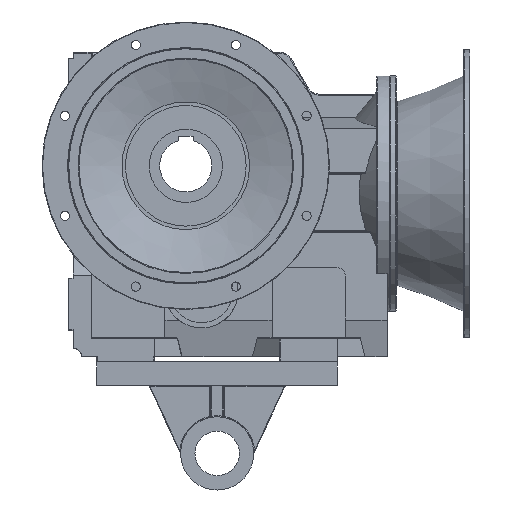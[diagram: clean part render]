
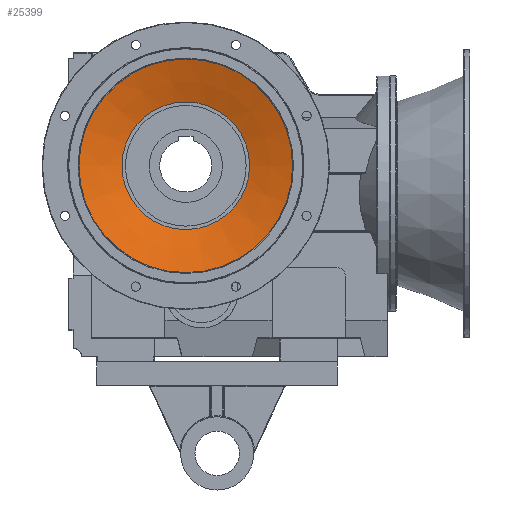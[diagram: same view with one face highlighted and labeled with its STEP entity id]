
A CAD part, front view. The second image highlights one B-rep face of the part: STEP entity #25399.
In plain terms, the highlighted conical face has half-angle 72.962 degrees and reference radius 163.5 mm.
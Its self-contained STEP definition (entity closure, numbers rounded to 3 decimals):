
#25337=CARTESIAN_POINT('',(-204.293,-29.549,0.));
#25338=VERTEX_POINT('',#25337);
#25339=CARTESIAN_POINT('',(0.0,-29.549,0.));
#25340=DIRECTION('',(0.0,1.0,0.0));
#25341=DIRECTION('',(1.0,0.0,0.0));
#25342=AXIS2_PLACEMENT_3D('',#25339,#25340,#25341);
#25343=CIRCLE('',#25342,204.293);
#25344=EDGE_CURVE('',#25338,#25338,#25343,.T.);
#25380=CARTESIAN_POINT('',(0.0,-17.048,0.0));
#25381=DIRECTION('',(0.0,-1.0,0.0));
#25382=DIRECTION('',(-1.0,0.0,0.0));
#25383=AXIS2_PLACEMENT_3D('',#25380,#25381,#25382);
#25384=CONICAL_SURFACE('',#25383,163.5,72.962);
#25385=CARTESIAN_POINT('',(-122.,-4.33,0.));
#25386=VERTEX_POINT('',#25385);
#25387=CARTESIAN_POINT('',(0.0,-4.33,0.0));
#25388=DIRECTION('',(0.0,1.0,0.0));
#25389=DIRECTION('',(-1.0,0.0,0.0));
#25390=AXIS2_PLACEMENT_3D('',#25387,#25388,#25389);
#25391=CIRCLE('',#25390,122.);
#25392=EDGE_CURVE('',#25386,#25386,#25391,.T.);
#25393=ORIENTED_EDGE('',*,*,#25392,.T.);
#25394=EDGE_LOOP('',(#25393));
#25395=FACE_OUTER_BOUND('',#25394,.T.);
#25396=ORIENTED_EDGE('',*,*,#25344,.F.);
#25397=EDGE_LOOP('',(#25396));
#25398=FACE_BOUND('',#25397,.T.);
#25399=ADVANCED_FACE('',(#25395,#25398),#25384,.F.);
